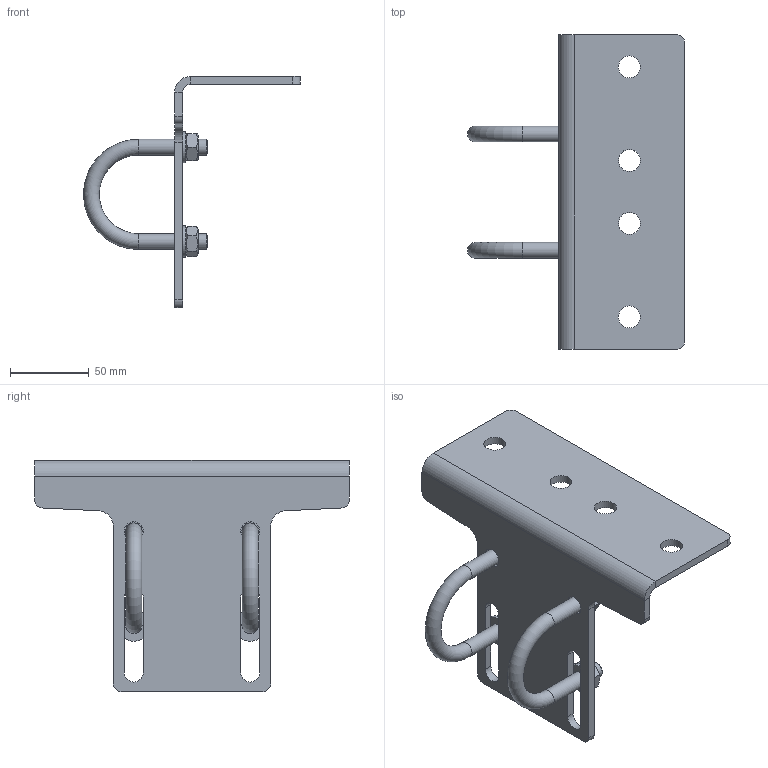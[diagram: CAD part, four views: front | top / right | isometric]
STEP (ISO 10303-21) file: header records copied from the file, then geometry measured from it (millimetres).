
FILE_DESCRIPTION(/* description */ (''),/* implementation_level */ '2;1');
FILE_NAME(/* name */ 'D:\VDV Techniek\Documents\Inventor\_ISP_Products\UDG on Round Tube Kit\Round tube kit original\STP\Round tube 48mm-out-Mounting bracket.stp',/* time_stamp */ '2022-12-29T15:05:05+01:00',/* author */ ('jos'),/* organization */ (''),/* preprocessor_version */ 'ST-DEVELOPER v15.2',/* originating_system */ 'Autodesk Inventor 2014',/* authorisation */ '');
FILE_SCHEMA (('AUTOMOTIVE_DESIGN { 1 0 10303 214 3 1 1 }'));
Length unit declared in the file: millimetre
Products named in the file (5): UDG_Mounting_Bracket_universal_HDG; Krambeugel 48mm; DIN 125 - A 10,5; DIN 934 - M10 x 1,5; Round tube 48mm-out-Mounting bracket
Assembly tree (11 placements, depth 2):
  Round tube 48mm-out-Mounting bracket
    UDG_Mounting_Bracket_universal_HDG
    Krambeugel 48mm  x2
    DIN 125 - A 10,5  x4
    DIN 934 - M10 x 1,5  x4
Bounding box: 138 x 200 x 147 mm (x, y, z)
Volume: 186205.8 mm3; surface area: 84810.6 mm2
Topology: 11 solids, 11 shells, 122 faces, 272 edges, 172 vertices
Faces by surface type: plane 64, cylinder 36, cone 20, torus 2
Full cylindrical faces by diameter (mm): 8.376 x4, 10 x4, 10.5 x4, 12 x2, 14 x4, 20 x4
Entity records: 1959 total; most frequent: DIRECTION 338, CARTESIAN_POINT 334, ORIENTED_EDGE 268, AXIS2_PLACEMENT_3D 136, EDGE_CURVE 134, EDGE_LOOP 102, VERTEX_POINT 96, LINE 66
